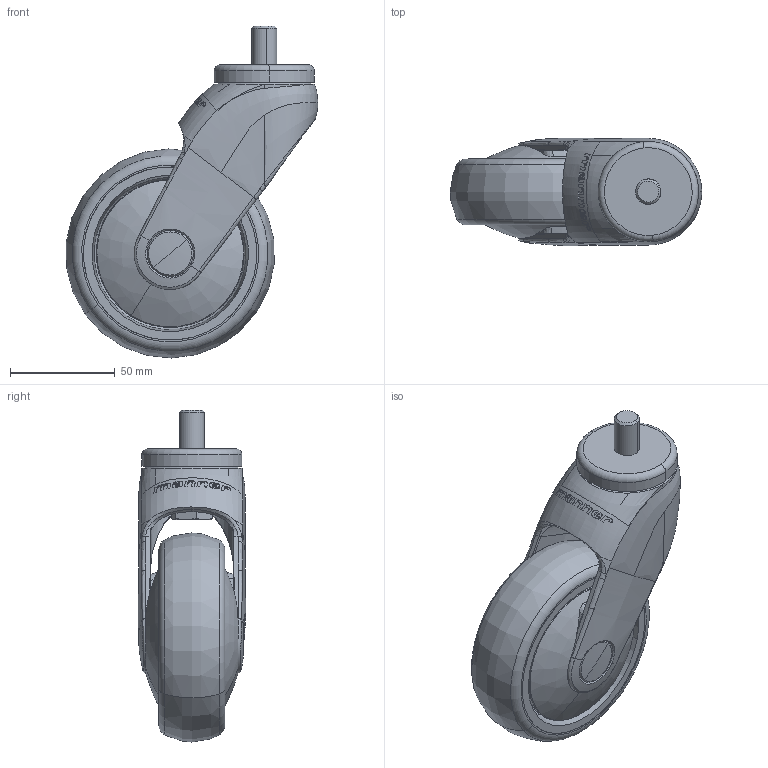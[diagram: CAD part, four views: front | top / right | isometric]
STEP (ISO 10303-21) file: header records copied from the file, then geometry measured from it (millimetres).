
FILE_DESCRIPTION (( 'STEP AP203' ), '1' );
FILE_NAME ('301752.STEP', '2010-07-15T07:34:08', ( ' ' ), ( ' ' ), 'SwSTEP 2.0', 'SolidWorks 2007', '' );
FILE_SCHEMA (( 'CONFIG_CONTROL_DESIGN' ));
Length unit declared in the file: millimetre
Products named in the file (1): 301752
Bounding box: 120.28 x 51.24 x 158.78 mm (x, y, z)
Volume: 231331.6 mm3; surface area: 121793 mm2
Topology: 21 solids, 21 shells, 756 faces, 2545 edges, 1837 vertices
Faces by surface type: plane 195, bspline 182, cylinder 176, cone 117, torus 66, sphere 20
Entity records: 72651 total; most frequent: CARTESIAN_POINT 53264, ORIENTED_EDGE 4988, DIRECTION 2873, EDGE_CURVE 2494, VERTEX_POINT 1813, B_SPLINE_CURVE_WITH_KNOTS 1291, AXIS2_PLACEMENT_3D 1211, EDGE_LOOP 813
